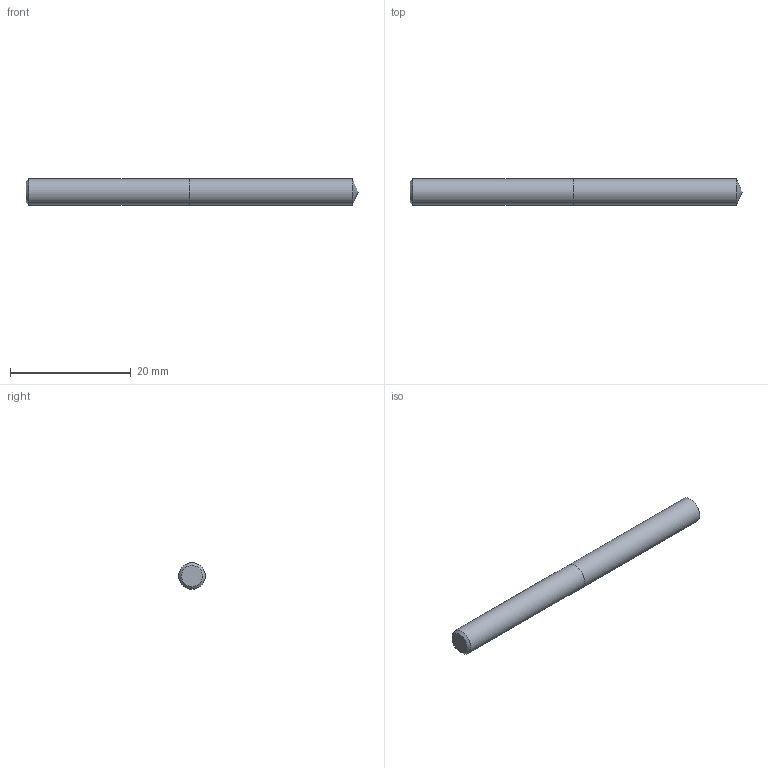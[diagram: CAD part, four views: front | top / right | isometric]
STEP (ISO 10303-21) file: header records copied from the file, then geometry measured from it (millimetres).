
FILE_DESCRIPTION (( 'STEP AP214' ), '1' );
FILE_NAME ('03-2410.STEP', '2022-06-03T07:24:03', ( 'USER' ), ( '' ), 'SwSTEP 2.0', 'SolidWorks 2018', '' );
FILE_SCHEMA (( 'AUTOMOTIVE_DESIGN' ));
Length unit declared in the file: inch
Products named in the file (1): 03-2410
Bounding box: 54.88 x 4.37 x 4.37 mm (x, y, z)
Volume: 811.2 mm3; surface area: 797.6 mm2
Topology: 2 solids, 2 shells, 7 faces, 11 edges, 7 vertices
Faces by surface type: plane 3, cylinder 2, cone 2
Full cylindrical faces by diameter (mm): 4.366 x2
Entity records: 214 total; most frequent: DIRECTION 26, CARTESIAN_POINT 18, AXIS2_PLACEMENT_3D 13, ORIENTED_EDGE 10, EDGE_LOOP 10, FACE_OUTER_BOUND 9, ADVANCED_FACE 7, LENGTH_MEASURE_WITH_UNIT 7
